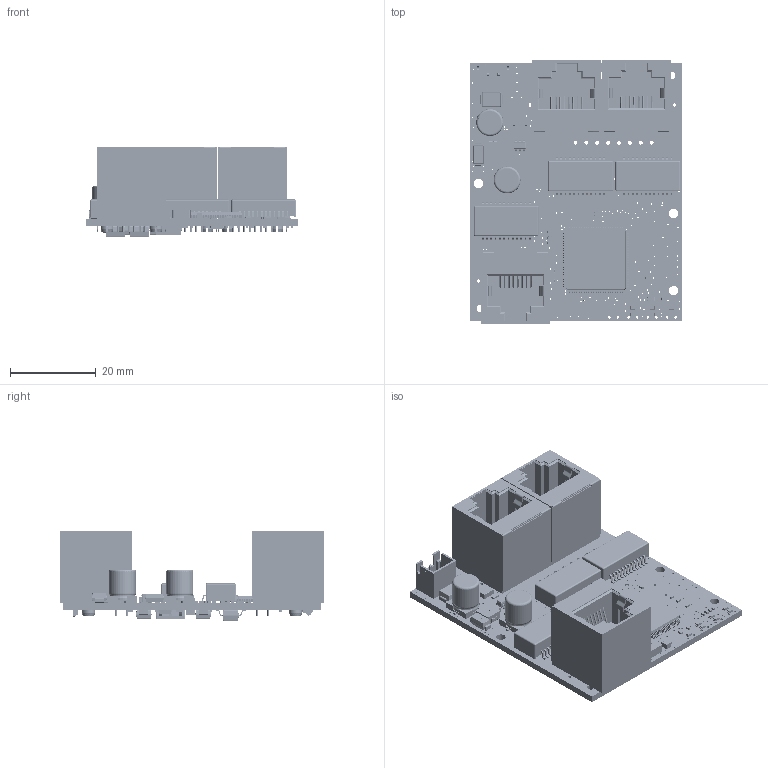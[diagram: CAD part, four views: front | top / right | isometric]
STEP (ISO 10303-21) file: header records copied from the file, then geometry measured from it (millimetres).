
FILE_DESCRIPTION(('Designed by EasyEDA Pro'),'2;1');
FILE_NAME('Open CASCADE Shape Model','2024-07-09T21:44:58',('Author'),( 'Open CASCADE'),'Open CASCADE STEP processor 7.8','Open CASCADE 7.8' ,'Unknown');
FILE_SCHEMA(('AUTOMOTIVE_DESIGN { 1 0 10303 214 1 1 1 1 }'));
Length unit declared in the file: millimetre
Products named in the file (144): PCBModel; TopTrack; BottomTrack; Board; 5xKq-C16; C0805; SOLID; 5xKq-C30; 5xKq-C3; 5xKq-C2; C0402; 5xKq-C7; 5xKq-C18; 5xKq-C93; 5xKq-C94; 5xKq-C95; 5xKq-C96; 5xKq-C97; 5xKq-C98; 5xKq-C99; 5xKq-C100; 5xKq-C101; 5xKq-C102; 5xKq-C103; 5xKq-C104; 5xKq-C105; 5xKq-C106; 5xKq-C107; 5xKq-C108; 5xKq-C110; 5xKq-C112; 5xKq-C113; 5xKq-C116; 5xKq-C117; 5xKq-C127; 5xKq-C130; 5xKq-C36; 0402; 5xKq-C37; 5xKq-C39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
Assembly tree (214 placements, depth 4):
  PCBModel
    TopTrack
    BottomTrack
    Board
    5xKq-C16
      C0805
        SOLID
    5xKq-C30
      C0805
        SOLID
    5xKq-C3
      C0805
        SOLID
    5xKq-C2
      C0402
        SOLID
    5xKq-C7
      C0402
        SOLID
    5xKq-C18
      C0402
        SOLID
    5xKq-C93
      C0402
        SOLID
    5xKq-C94
      C0402
        SOLID
    5xKq-C95
      C0402
        SOLID
    5xKq-C96
      C0402
        SOLID
    5xKq-C97
      C0402
        SOLID
    5xKq-C98
      C0402
        SOLID
    5xKq-C99
      C0402
        SOLID
    5xKq-C100
      C0402
        SOLID
    5xKq-C101
      C0402
        SOLID
    5xKq-C102
      C0402
        SOLID
    5xKq-C103
      C0402
        SOLID
    5xKq-C104
      C0402
        SOLID
    5xKq-C105
      C0402
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Bounding box: 49.47 x 61.4 x 20.97 mm (x, y, z)
Volume: 16964.4 mm3; surface area: 18541.1 mm2
Topology: 257 solids, 257 shells, 34142 faces, 91688 edges, 59676 vertices
Faces by surface type: plane 19172, bspline 9419, cylinder 4843, sphere 598, torus 92, cone 18
Entity records: 467245 total; most frequent: CARTESIAN_POINT 110279, ORIENTED_EDGE 59538, DIRECTION 45806, EDGE_CURVE 29769, LINE 20062, VECTOR 20062, VERTEX_POINT 19496, AXIS2_PLACEMENT_3D 12872
